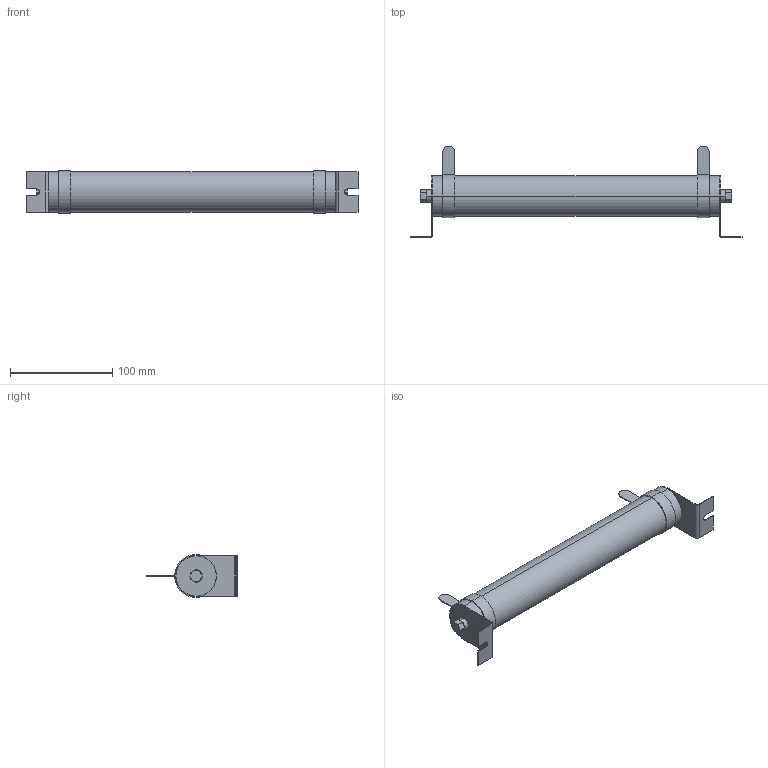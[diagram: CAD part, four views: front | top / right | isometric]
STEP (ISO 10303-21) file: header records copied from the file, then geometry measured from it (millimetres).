
FILE_DESCRIPTION (( 'STEP AP203' ), '1' );
FILE_NAME ('IRT-120-250.STEP', '2022-11-16T11:56:42', ( '' ), ( '' ), 'SwSTEP 2.0', 'SolidWorks 2018', '' );
FILE_SCHEMA (( 'CONFIG_CONTROL_DESIGN' ));
Length unit declared in the file: millimetre
Products named in the file (1): IRT-120-250
Bounding box: 325 x 90 x 42 mm (x, y, z)
Volume: 365040.8 mm3; surface area: 48258.6 mm2
Topology: 1 solids, 1 shells, 90 faces, 210 edges, 132 vertices
Faces by surface type: plane 56, cylinder 34
Entity records: 2639 total; most frequent: DIRECTION 472, CARTESIAN_POINT 433, ORIENTED_EDGE 420, EDGE_CURVE 210, AXIS2_PLACEMENT_3D 171, VERTEX_POINT 132, LINE 130, VECTOR 130
